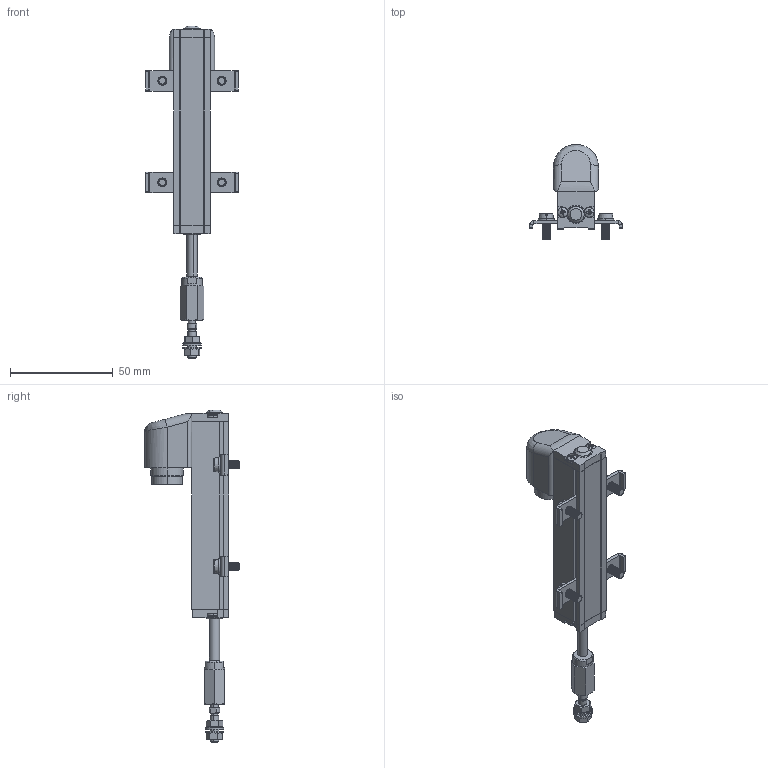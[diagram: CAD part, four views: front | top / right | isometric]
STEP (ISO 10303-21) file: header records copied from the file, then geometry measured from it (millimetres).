
FILE_DESCRIPTION (( 'STEP AP203' ), '1' );
FILE_NAME ('PA-1-C-050.STEP', '2013-02-19T11:32:07', ( 'User' ), ( '' ), 'SwSTEP 2.0', 'SolidWorks 2012', '' );
FILE_SCHEMA (( 'CONFIG_CONTROL_DESIGN' ));
Length unit declared in the file: millimetre
Products named in the file (18): PA-1-C-050; CUS065X; ALB065X; TAP005X; BUS025X; PKIT020X; MIM500X_MIM500; MIM501X_MIM501; MIM201X_MIM201; ALB100X; CUS100X; MIM892X_MIM892; MIM510X_PreviewCfg; STA029X; TES053X; CON010X; MIM828X_MIM828; TES049X
Assembly tree (31 placements, depth 3):
  PA-1-C-050
    TES049X
    MIM828X_MIM828  x4
    CON010X
    TES053X
    STA029X  x4
    MIM510X_PreviewCfg  x4
    MIM892X_MIM892  x4
    PKIT020X
      CUS100X
      ALB100X
      MIM201X_MIM201  x2
      MIM501X_MIM501  x2
      MIM500X_MIM500
    BUS025X
    TAP005X
    ALB065X
    CUS065X
Bounding box: 45 x 46.3 x 161.78 mm (x, y, z)
Volume: 46552.8 mm3; surface area: 24494.8 mm2
Topology: 29 solids, 35 shells, 1495 faces, 3737 edges, 2299 vertices
Faces by surface type: cone 667, cylinder 428, plane 331, torus 34, bspline 27, sphere 8
Entity records: 22043 total; most frequent: CARTESIAN_POINT 4315, DIRECTION 3470, ORIENTED_EDGE 3100, EDGE_CURVE 1555, AXIS2_PLACEMENT_3D 1398, VERTEX_POINT 975, CIRCLE 742, EDGE_LOOP 701
